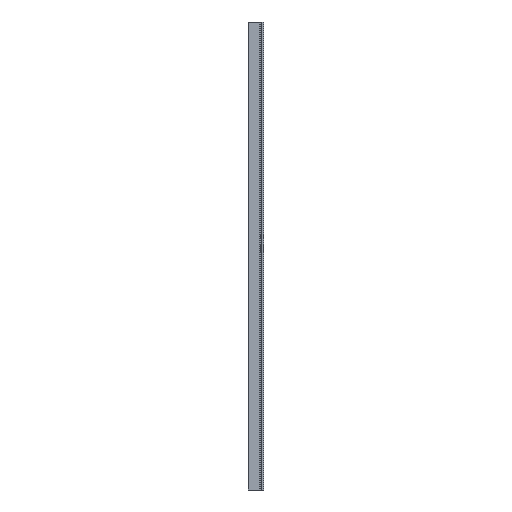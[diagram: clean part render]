
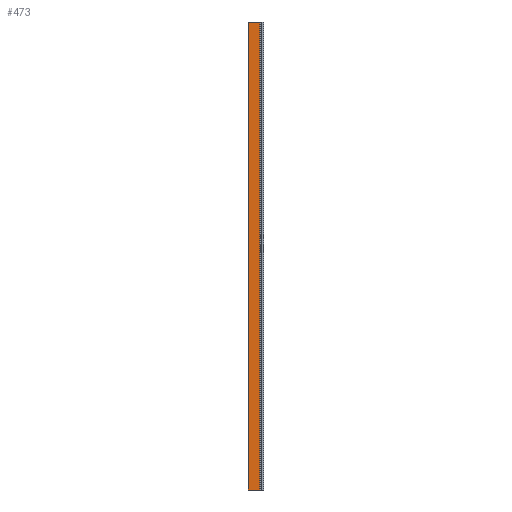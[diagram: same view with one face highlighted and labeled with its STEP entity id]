
A CAD part, left-side view. The second image highlights one B-rep face of the part: STEP entity #473.
In plain terms, the highlighted planar face has unit normal (-1, 0, 0).
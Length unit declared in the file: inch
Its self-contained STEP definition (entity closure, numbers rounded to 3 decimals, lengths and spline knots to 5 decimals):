
#7 = CARTESIAN_POINT ( 'NONE',  ( 0., 0.03937, 120. ) ) ;
#8 = CARTESIAN_POINT ( 'NONE',  ( 0., 3., 0. ) ) ;
#18 = LINE ( 'NONE', #176, #319 ) ;
#22 = CARTESIAN_POINT ( 'NONE',  ( 0., 3., 120. ) ) ;
#44 = CARTESIAN_POINT ( 'NONE',  ( 0., 3., 120. ) ) ;
#87 = VERTEX_POINT ( 'NONE', #712 ) ;
#94 = EDGE_CURVE ( 'NONE', #268, #570, #600, .T. ) ;
#99 = CARTESIAN_POINT ( 'NONE',  ( 0., 0.03937, 120. ) ) ;
#126 = DIRECTION ( 'NONE',  ( 0., 0., -1. ) ) ;
#141 = ORIENTED_EDGE ( 'NONE', *, *, #94, .T. ) ;
#146 = EDGE_CURVE ( 'NONE', #570, #87, #561, .T. ) ;
#149 = DIRECTION ( 'NONE',  ( 0., -1., 0. ) ) ;
#176 = CARTESIAN_POINT ( 'NONE',  ( 0., 0.03937, 120. ) ) ;
#183 = EDGE_CURVE ( 'NONE', #507, #87, #672, .T. ) ;
#241 = ORIENTED_EDGE ( 'NONE', *, *, #146, .T. ) ;
#268 = VERTEX_POINT ( 'NONE', #22 ) ;
#311 = AXIS2_PLACEMENT_3D ( 'NONE', #99, #613, #445 ) ;
#317 = ORIENTED_EDGE ( 'NONE', *, *, #183, .F. ) ;
#319 = VECTOR ( 'NONE', #461, 39.37008 ) ;
#344 = VECTOR ( 'NONE', #149, 39.37008 ) ;
#366 = CARTESIAN_POINT ( 'NONE',  ( 0., 0.03937, 120. ) ) ;
#396 = DIRECTION ( 'NONE',  ( 0., 0., -1. ) ) ;
#445 = DIRECTION ( 'NONE',  ( 0., 0., -1. ) ) ;
#461 = DIRECTION ( 'NONE',  ( 0., -1., 0. ) ) ;
#473 = ADVANCED_FACE ( 'NONE', ( #534 ), #496, .F. ) ;
#496 = PLANE ( 'NONE',  #311 ) ;
#507 = VERTEX_POINT ( 'NONE', #366 ) ;
#529 = EDGE_LOOP ( 'NONE', ( #241, #317, #643, #141 ) ) ;
#534 = FACE_OUTER_BOUND ( 'NONE', #529, .T. ) ;
#561 = LINE ( 'NONE', #635, #344 ) ;
#570 = VERTEX_POINT ( 'NONE', #8 ) ;
#600 = LINE ( 'NONE', #44, #721 ) ;
#613 = DIRECTION ( 'NONE',  ( 1., 0., 0. ) ) ;
#635 = CARTESIAN_POINT ( 'NONE',  ( 0., 0.03937, 0. ) ) ;
#643 = ORIENTED_EDGE ( 'NONE', *, *, #644, .F. ) ;
#644 = EDGE_CURVE ( 'NONE', #268, #507, #18, .T. ) ;
#672 = LINE ( 'NONE', #7, #695 ) ;
#695 = VECTOR ( 'NONE', #396, 39.37008 ) ;
#712 = CARTESIAN_POINT ( 'NONE',  ( 0., 0.03937, 0. ) ) ;
#721 = VECTOR ( 'NONE', #126, 39.37008 ) ;
